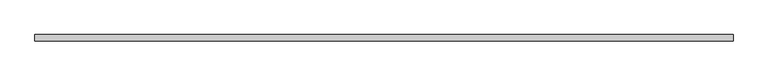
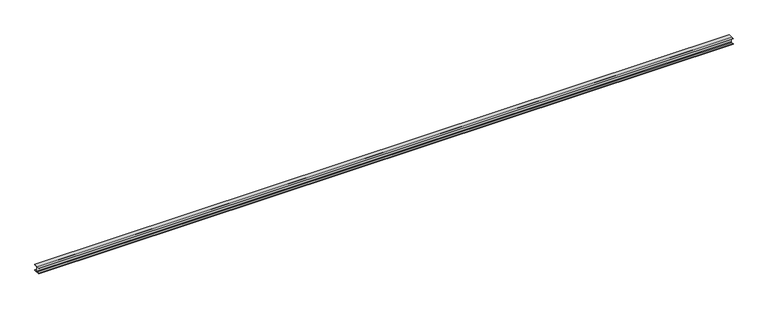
"""IFC4 building model written with IfcOpenShell, lengths in millimetres: beam geometry, Membrure Haute 53938 : Membrure Haute 53938."""

from ifc_helpers import new_model, si_unit, frame, origin, place, context, project, spatial, polyline, outline, extrude, source, transform, mapped, element, save


def beam_f56b2adc(model_context):
    return source(origin(), model_context, "Body", "SweptSolid", [
        extrude(outline(polyline([(-34330.0, 10547.1213054), (-34385.25, 10547.1213054), (-34397.25, 10535.1213054), (-34397.25, 10443.1213054), (-34385.25, 10431.1213054), (-34330.0, 10431.1213054), (-34330.0, 10422.6213054), (-34470.0, 10422.6213054), (-34470.0, 10431.1213054), (-34414.75, 10431.1213054), (-34402.75, 10443.1213054), (-34402.75, 10535.1213054), (-34414.75, 10547.1213054), (-34470.0, 10547.1213054), (-34470.0, 10555.6213054), (-34330.0, 10555.6213054), (-34330.0, 10547.1213054)])), frame((179.9999999, 0.0, 0.0), z_axis=(1.0, 0.0, 0.0), x_axis=(0.0, 1.0, 0.0)), (0.0, 0.0, 1.0), 15210.0),
    ])


if __name__ == "__main__":
    model = new_model("IFC4")
    model_context = context("Model", 3, world=origin())
    ifc_project = project(units=[si_unit("LENGTHUNIT", "METRE", prefix="MILLI")], contexts=[model_context])
    site = spatial("IfcSite", under=ifc_project)
    building = spatial("IfcBuilding", under=site)
    placement = place(None, origin())
    beam_shape = beam_f56b2adc(model_context)
    element("IfcBeam", 1, ObjectType="Membrure Haute 53938 : Membrure Haute 53938", at=placement, inside=building, context=model_context, shape_type="MappedRepresentation", body=[
        mapped(beam_shape, transform((0.0, 0.0, 0.0), x_axis=(1.0, 0.0, 0.0), y_axis=(0.0, 1.0, 0.0), z_axis=(0.0, 0.0, 1.0))),
    ])
    save(model, "model.ifc")
